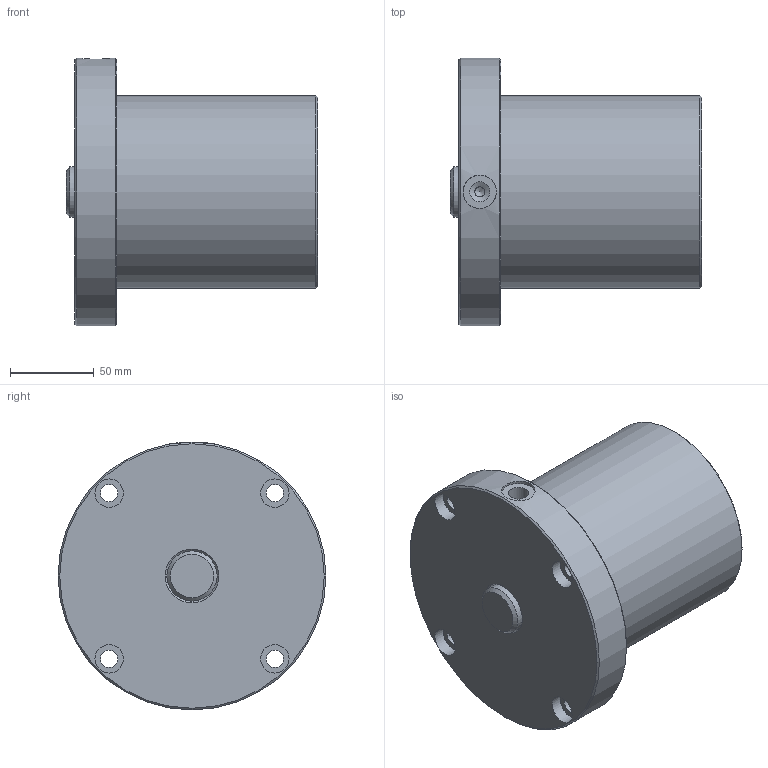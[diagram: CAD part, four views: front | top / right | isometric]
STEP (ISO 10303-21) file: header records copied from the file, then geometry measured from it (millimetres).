
FILE_DESCRIPTION( ( 'Unknown' ), '1' );
FILE_NAME( 'F:/JAKOB-STEP+IGES-Dateien/STEP-Dateien/ZDF/ZDFo 10000.stp', 'Unknown', ( 'Unknown' ), ( 'Unknown' ), 'XStep 1.0', 'Unknown', ' ' );
FILE_SCHEMA( ( 'CONFIG_CONTROL_DESIGN' ) );
Length unit declared in the file: millimetre
Products named in the file (1): 1
Bounding box: 150 x 160 x 160 mm (x, y, z)
Volume: 1735653 mm3; surface area: 100359.5 mm2
Topology: 1 solids, 1 shells, 30 faces, 62 edges, 40 vertices
Faces by surface type: cylinder 14, plane 9, cone 7
Full cylindrical faces by diameter (mm): 6 x1, 10.4 x4, 12 x1, 17 x4, 20 x1, 30 x1, 115 x1, 160 x1
Entity records: 787 total; most frequent: CARTESIAN_POINT 190, DIRECTION 126, EDGE_LOOP 66, ORIENTED_EDGE 66, AXIS2_PLACEMENT_3D 63, FACE_OUTER_BOUND 44, VERTEX_POINT 34, EDGE_CURVE 33
